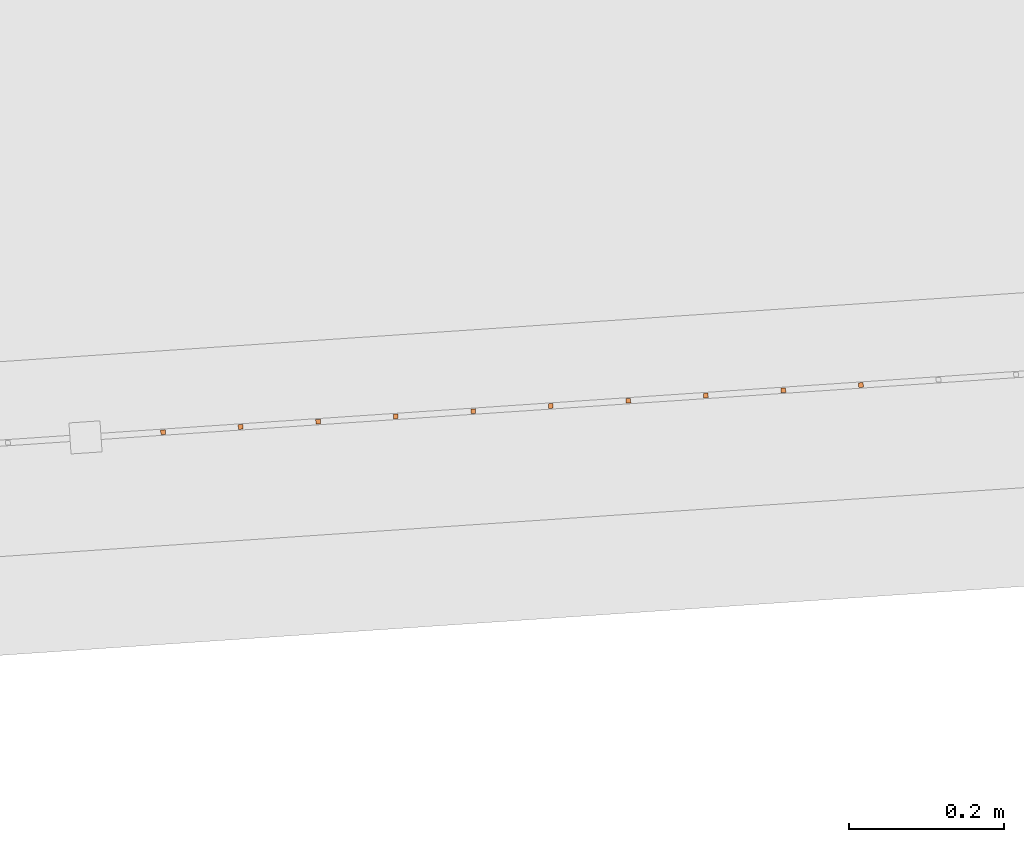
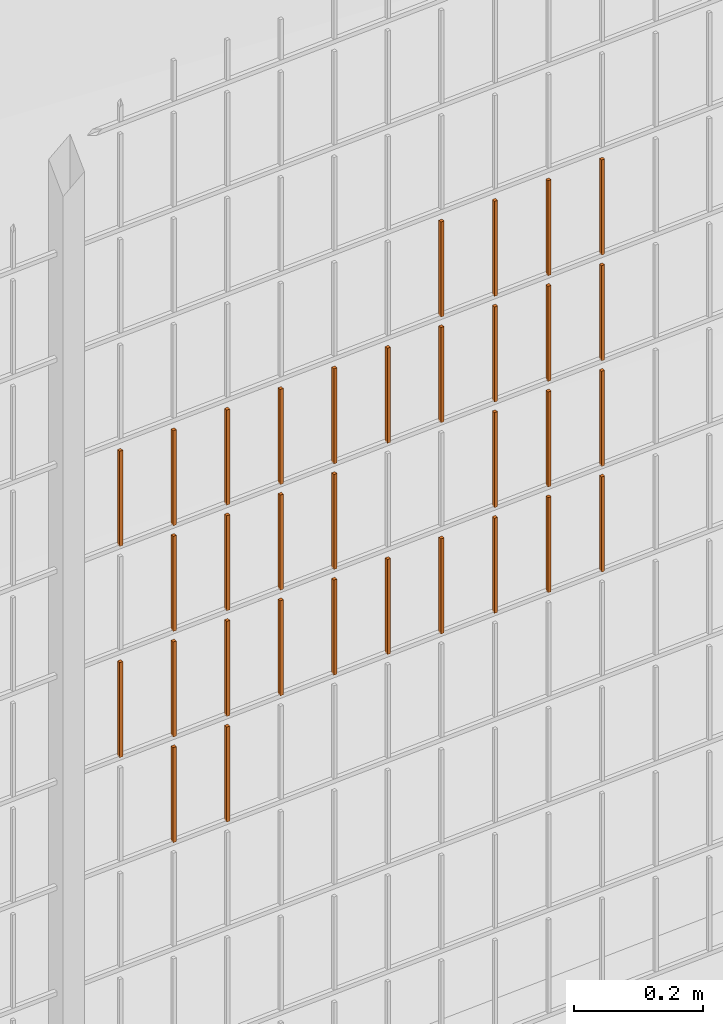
# One storey, part 353 of 1809: 33 proxies, 1 element without a shape of its own.
"""IFC2X3 building model written with IfcOpenShell, lengths in millimetres."""

from ifc_helpers import new_model, entity, si_unit, converted_unit, derived_unit, money_unit, direction, frame, origin_with_axes, place, context, subcontext, project, spatial, faceted_brep, source, transform, mapped, material, type_object, element, aggregate, save


model = new_model("IFC2X3")

# Units and contexts
model_context = context("Model", 3, precision=0.01, world=origin_with_axes(), true_north=direction((0.0, 1.0)))
body_context = subcontext(model_context, "Body", "Model", "MODEL_VIEW")
ifc_project = project(units=[si_unit("LENGTHUNIT", "METRE", prefix="MILLI"), si_unit("AREAUNIT", "SQUARE_METRE"), si_unit("VOLUMEUNIT", "CUBIC_METRE"), converted_unit("PLANEANGLEUNIT", "DEGREE", entity("IfcPlaneAngleMeasure", 0.0174532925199), si_unit("PLANEANGLEUNIT", "RADIAN"), dimensions=[0, 0, 0, 0, 0, 0, 0]), si_unit("SOLIDANGLEUNIT", "STERADIAN"), money_unit("EUR"), converted_unit("TIMEUNIT", "Year", entity("IfcTimeMeasure", 31556926.0), si_unit("TIMEUNIT", "SECOND"), dimensions=[0, 0, 1, 0, 0, 0, 0]), si_unit("MASSUNIT", "GRAM", prefix="KILO"), si_unit("THERMODYNAMICTEMPERATUREUNIT", "DEGREE_CELSIUS"), si_unit("LUMINOUSINTENSITYUNIT", "LUMEN"), si_unit("ENERGYUNIT", "JOULE", prefix="MEGA"), derived_unit("THERMALCONDUCTANCEUNIT", [(si_unit("POWERUNIT", "WATT"), 1), (si_unit("LENGTHUNIT", "METRE"), -1), (si_unit("THERMODYNAMICTEMPERATUREUNIT", "KELVIN"), -1)]), derived_unit("SPECIFICHEATCAPACITYUNIT", [(si_unit("ENERGYUNIT", "JOULE"), 1), (si_unit("MASSUNIT", "GRAM", prefix="KILO"), -1), (si_unit("THERMODYNAMICTEMPERATUREUNIT", "KELVIN"), -1)]), derived_unit("MASSDENSITYUNIT", [(si_unit("MASSUNIT", "GRAM", prefix="KILO"), 1), (si_unit("VOLUMEUNIT", "CUBIC_METRE"), -1)])], contexts=[model_context])

# Site, building, storey
site_placement = place(None, origin_with_axes())
site = spatial("IfcSite", under=ifc_project, at=site_placement, Name="Politse- ja Piirivalveameti ning Päästeameti ühishoone", CompositionType="ELEMENT")
building_placement = place(site_placement, origin_with_axes())
building = spatial("IfcBuilding", under=site, at=building_placement, Name="Politse- ja Piirivalveameti ning Päästeameti ühishoone", CompositionType="ELEMENT")
storey_placement = place(building_placement, origin_with_axes())
storey = spatial("IfcBuildingStorey", under=building, at=storey_placement, Name="Esimene korrus", CompositionType="ELEMENT", Elevation=0.0)

# Proxies
building_element_proxy_type_1 = type_object("IfcBuildingElementProxyType", Name="Railing Type", PredefinedType="NOTDEFINED")
proxy_1_placement = place(storey_placement, frame((89252.001212, -29183.4766571, 203.661247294), z_axis=(0.0, 0.0, 1.0), x_axis=(1.0, 0.0, 0.0)))
proxy_1 = element("IfcBuildingElementProxy", 1, at=proxy_1_placement, inside=storey, type_object=building_element_proxy_type_1, Name="PIIRDEAED")
ifc_material = material(Name="ET-03_Raud")
building_element_proxy_type_2 = type_object("IfcBuildingElementProxyType", Name="IfcBuildingElementProxy", PredefinedType="NOTDEFINED")
shared_shape_1 = source(origin_with_axes(), body_context, "Body", "Brep", [
    faceted_brep([(3.0, 3.0, -0.000752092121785), (-3.0, 3.0, -0.000752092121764), (-3.0, 3.0, 179.99926046), (3.0, 3.0, 179.99926046), (3.0, -3.0, 0.000752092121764), (-3.0, -3.0, 0.000752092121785), (-3.0, -3.0, 180.000764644), (3.0, -3.0, 180.000764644)], [[[0, 1, 2, 3]], [[0, 4, 5, 1]], [[1, 5, 6, 2]], [[3, 2, 6, 7]], [[4, 0, 3, 7]], [[5, 4, 7, 6]]]),
])
proxy_2_placement = place(proxy_1_placement, frame((-26865.4709585, -19112.4359382, 820.483935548), z_axis=(0.0, 0.0, 1.0), x_axis=(1.0, 0.0, 0.0)))
proxy_2 = element("IfcBuildingElementProxy", 2, at=proxy_2_placement, type_object=building_element_proxy_type_2, material=ifc_material, Name="BALUSTER - 001", context=body_context, shape_type="MappedRepresentation", body=[
    mapped(shared_shape_1, transform((0.0, 0.0, 0.0), x_axis=(-0.0673926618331, 0.997726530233, 0.0), y_axis=(-0.997726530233, -0.0673926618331, 0.0), z_axis=(0.0, 0.0, 1.0))),
])
shared_shape_2 = source(origin_with_axes(), body_context, "Body", "Brep", [
    faceted_brep([(3.0, 3.0, -0.000752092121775), (-3.0, 3.0, -0.000752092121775), (-3.0, 3.0, 179.99926046), (3.0, 3.0, 179.99926046), (3.0, -3.0, 0.000752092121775), (-3.0, -3.0, 0.000752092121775), (-3.0, -3.0, 180.000764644), (3.0, -3.0, 180.000764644)], [[[0, 1, 2, 3]], [[0, 4, 5, 1]], [[1, 5, 6, 2]], [[3, 2, 6, 7]], [[4, 0, 3, 7]], [[5, 4, 7, 6]]]),
])
proxy_3_placement = place(proxy_1_placement, frame((-26865.4709585, -19112.4359382, 1220.48393555), z_axis=(0.0, 0.0, 1.0), x_axis=(1.0, 0.0, 0.0)))
proxy_3 = element("IfcBuildingElementProxy", 3, at=proxy_3_placement, type_object=building_element_proxy_type_2, material=ifc_material, Name="BALUSTER - 001", context=body_context, shape_type="MappedRepresentation", body=[
    mapped(shared_shape_2, transform((0.0, 0.0, 0.0), x_axis=(-0.0673926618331, 0.997726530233, 0.0), y_axis=(-0.997726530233, -0.0673926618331, 0.0), z_axis=(0.0, 0.0, 1.0))),
])
shared_shape_3 = source(origin_with_axes(), body_context, "Body", "Brep", [
    faceted_brep([(3.0, 3.0, -0.000752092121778), (-3.0, 3.0, -0.000752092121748), (-3.00000000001, 2.99999999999, 179.99926046), (2.99999999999, 2.99999999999, 179.99926046), (3.0, -3.0, 0.000752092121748), (-3.0, -3.0, 0.000752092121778), (-3.00000000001, -3.00000000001, 180.000764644), (2.99999999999, -3.00000000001, 180.000764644)], [[[0, 1, 2, 3]], [[0, 4, 5, 1]], [[1, 5, 6, 2]], [[3, 2, 6, 7]], [[4, 0, 3, 7]], [[5, 4, 7, 6]]]),
])
proxy_4_placement = place(proxy_1_placement, frame((-26765.6983054, -19105.696672, 1020.50900529), z_axis=(0.0, 0.0, 1.0), x_axis=(1.0, 0.0, 0.0)))
proxy_4 = element("IfcBuildingElementProxy", 4, at=proxy_4_placement, type_object=building_element_proxy_type_2, material=ifc_material, Name="BALUSTER - 001", context=body_context, shape_type="MappedRepresentation", body=[
    mapped(shared_shape_3, transform((0.0, 0.0, 0.0), x_axis=(-0.0673926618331, 0.997726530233, 0.0), y_axis=(-0.997726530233, -0.0673926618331, 0.0), z_axis=(0.0, 0.0, 1.0))),
])
shared_shape_4 = source(origin_with_axes(), body_context, "Body", "Brep", [
    faceted_brep([(3.0, 3.0, -0.000752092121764), (-3.0, 3.0, -0.000752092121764), (-3.0, 3.0, 179.99926046), (3.0, 3.0, 179.99926046), (3.0, -3.0, 0.000752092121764), (-3.0, -3.0, 0.000752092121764), (-3.0, -3.0, 180.000764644), (3.0, -3.0, 180.000764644)], [[[0, 1, 2, 3]], [[0, 4, 5, 1]], [[1, 5, 6, 2]], [[3, 2, 6, 7]], [[4, 0, 3, 7]], [[5, 4, 7, 6]]]),
])
proxy_5_placement = place(proxy_1_placement, frame((-26965.2436115, -19119.1752044, 820.458865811), z_axis=(0.0, 0.0, 1.0), x_axis=(1.0, 0.0, 0.0)))
proxy_5 = element("IfcBuildingElementProxy", 5, at=proxy_5_placement, type_object=building_element_proxy_type_2, material=ifc_material, Name="BALUSTER - 001", context=body_context, shape_type="MappedRepresentation", body=[
    mapped(shared_shape_4, transform((0.0, 0.0, 0.0), x_axis=(-0.0673926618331, 0.997726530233, 0.0), y_axis=(-0.997726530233, -0.0673926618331, 0.0), z_axis=(0.0, 0.0, 1.0))),
])
proxy_6_placement = place(proxy_1_placement, frame((-26965.2436115, -19119.1752044, 1220.45886581), z_axis=(0.0, 0.0, 1.0), x_axis=(1.0, 0.0, 0.0)))
proxy_6 = element("IfcBuildingElementProxy", 6, at=proxy_6_placement, type_object=building_element_proxy_type_2, material=ifc_material, Name="BALUSTER - 001", context=body_context, shape_type="MappedRepresentation", body=[
    mapped(shared_shape_4, transform((0.0, 0.0, 0.0), x_axis=(-0.0673926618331, 0.997726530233, 0.0), y_axis=(-0.997726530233, -0.0673926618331, 0.0), z_axis=(0.0, 0.0, 1.0))),
])
shared_shape_5 = source(origin_with_axes(), body_context, "Body", "Brep", [
    faceted_brep([(3.0, 3.0, -0.000752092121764), (-3.0, 3.0, -0.000752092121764), (-3.0, 3.0, 179.99926046), (3.0, 3.0, 179.99926046), (3.0, -3.0, 0.000752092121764), (-3.0, -3.0, 0.000752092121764), (-3.0, -3.0, 180.000764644), (3.0, -3.0, 180.000764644)], [[[0, 1, 2, 3]], [[0, 4, 5, 1]], [[1, 5, 6, 2]], [[3, 2, 6, 7]], [[4, 0, 3, 7]], [[5, 4, 7, 6]]]),
])
proxy_7_placement = place(proxy_1_placement, frame((-26765.6983054, -19105.696672, 820.509005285), z_axis=(0.0, 0.0, 1.0), x_axis=(1.0, 0.0, 0.0)))
proxy_7 = element("IfcBuildingElementProxy", 7, at=proxy_7_placement, type_object=building_element_proxy_type_2, material=ifc_material, Name="BALUSTER - 001", context=body_context, shape_type="MappedRepresentation", body=[
    mapped(shared_shape_5, transform((0.0, 0.0, 0.0), x_axis=(-0.0673926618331, 0.997726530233, 0.0), y_axis=(-0.997726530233, -0.0673926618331, 0.0), z_axis=(0.0, 0.0, 1.0))),
])
shared_shape_6 = source(origin_with_axes(), body_context, "Body", "Brep", [
    faceted_brep([(3.0, 3.0, -0.000752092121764), (-3.0, 3.0, -0.000752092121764), (-3.0, 3.0, 179.99926046), (3.0, 3.0, 179.99926046), (3.0, -3.0, 0.000752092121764), (-3.0, -3.0, 0.000752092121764), (-3.0, -3.0, 180.000764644), (3.0, -3.0, 180.000764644)], [[[0, 1, 2, 3]], [[0, 4, 5, 1]], [[1, 5, 6, 2]], [[3, 2, 6, 7]], [[4, 0, 3, 7]], [[5, 4, 7, 6]]]),
])
proxy_8_placement = place(proxy_1_placement, frame((-26965.2436115, -19119.1752044, 620.458865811), z_axis=(0.0, 0.0, 1.0), x_axis=(1.0, 0.0, 0.0)))
proxy_8 = element("IfcBuildingElementProxy", 8, at=proxy_8_placement, type_object=building_element_proxy_type_2, material=ifc_material, Name="BALUSTER - 001", context=body_context, shape_type="MappedRepresentation", body=[
    mapped(shared_shape_6, transform((0.0, 0.0, 0.0), x_axis=(-0.0673926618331, 0.997726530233, 0.0), y_axis=(-0.997726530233, -0.0673926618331, 0.0), z_axis=(0.0, 0.0, 1.0))),
])
proxy_9_placement = place(proxy_1_placement, frame((-26765.6983054, -19105.696672, 1220.50900529), z_axis=(0.0, 0.0, 1.0), x_axis=(1.0, 0.0, 0.0)))
proxy_9 = element("IfcBuildingElementProxy", 9, at=proxy_9_placement, type_object=building_element_proxy_type_2, material=ifc_material, Name="BALUSTER - 001", context=body_context, shape_type="MappedRepresentation", body=[
    mapped(shared_shape_6, transform((0.0, 0.0, 0.0), x_axis=(-0.0673926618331, 0.997726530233, 0.0), y_axis=(-0.997726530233, -0.0673926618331, 0.0), z_axis=(0.0, 0.0, 1.0))),
])
shared_shape_7 = source(origin_with_axes(), body_context, "Body", "Brep", [
    faceted_brep([(3.0, 3.0, -0.000752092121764), (-3.0, 3.0, -0.000752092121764), (-3.0, 3.0, 179.99926046), (3.0, 3.0, 179.99926046), (3.0, -3.0, 0.000752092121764), (-3.0, -3.0, 0.000752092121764), (-3.0, -3.0, 180.000764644), (3.0, -3.0, 180.000764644)], [[[0, 1, 2, 3]], [[0, 4, 5, 1]], [[1, 5, 6, 2]], [[3, 2, 6, 7]], [[4, 0, 3, 7]], [[5, 4, 7, 6]]]),
])
proxy_10_placement = place(proxy_1_placement, frame((-26566.1529994, -19092.2181397, 1420.55914476), z_axis=(0.0, 0.0, 1.0), x_axis=(1.0, 0.0, 0.0)))
proxy_10 = element("IfcBuildingElementProxy", 10, at=proxy_10_placement, type_object=building_element_proxy_type_2, material=ifc_material, Name="BALUSTER - 001", context=body_context, shape_type="MappedRepresentation", body=[
    mapped(shared_shape_7, transform((0.0, 0.0, 0.0), x_axis=(-0.0673926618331, 0.997726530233, 0.0), y_axis=(-0.997726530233, -0.0673926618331, 0.0), z_axis=(0.0, 0.0, 1.0))),
])
shared_shape_8 = source(origin_with_axes(), body_context, "Body", "Brep", [
    faceted_brep([(3.0, 3.0, -0.000752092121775), (-3.0, 3.0, -0.000752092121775), (-3.0, 3.0, 179.99926046), (3.0, 3.0, 179.99926046), (3.0, -3.0, 0.000752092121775), (-3.0, -3.0, 0.000752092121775), (-3.0, -3.0, 180.000764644), (3.0, -3.0, 180.000764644)], [[[0, 1, 2, 3]], [[0, 4, 5, 1]], [[1, 5, 6, 2]], [[3, 2, 6, 7]], [[4, 0, 3, 7]], [[5, 4, 7, 6]]]),
])
proxy_11_placement = place(proxy_1_placement, frame((-26266.8350403, -19072.0003411, 1420.63435397), z_axis=(0.0, 0.0, 1.0), x_axis=(1.0, 0.0, 0.0)))
proxy_11 = element("IfcBuildingElementProxy", 11, at=proxy_11_placement, type_object=building_element_proxy_type_2, material=ifc_material, Name="BALUSTER - 001", context=body_context, shape_type="MappedRepresentation", body=[
    mapped(shared_shape_8, transform((0.0, 0.0, 0.0), x_axis=(-0.0673926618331, 0.997726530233, 0.0), y_axis=(-0.997726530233, -0.0673926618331, 0.0), z_axis=(0.0, 0.0, 1.0))),
])
shared_shape_9 = source(origin_with_axes(), body_context, "Body", "Brep", [
    faceted_brep([(3.0, 3.0, -0.000752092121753), (-3.0, 3.0, -0.000752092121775), (-3.0, 3.0, 179.99926046), (3.0, 3.0, 179.99926046), (3.0, -3.0, 0.000752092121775), (-3.0, -3.0, 0.000752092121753), (-3.0, -3.0, 180.000764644), (3.0, -3.0, 180.000764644)], [[[0, 1, 2, 3]], [[0, 4, 5, 1]], [[1, 5, 6, 2]], [[3, 2, 6, 7]], [[4, 0, 3, 7]], [[5, 4, 7, 6]]]),
])
proxy_12_placement = place(proxy_1_placement, frame((-26466.3803464, -19085.4788735, 820.584214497), z_axis=(0.0, 0.0, 1.0), x_axis=(1.0, 0.0, 0.0)))
proxy_12 = element("IfcBuildingElementProxy", 12, at=proxy_12_placement, type_object=building_element_proxy_type_2, material=ifc_material, Name="BALUSTER - 001", context=body_context, shape_type="MappedRepresentation", body=[
    mapped(shared_shape_9, transform((0.0, 0.0, 0.0), x_axis=(-0.0673926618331, 0.997726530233, 0.0), y_axis=(-0.997726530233, -0.0673926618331, 0.0), z_axis=(0.0, 0.0, 1.0))),
])
shared_shape_10 = source(origin_with_axes(), body_context, "Body", "Brep", [
    faceted_brep([(3.0, 3.0, -0.000752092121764), (-3.0, 3.0, -0.000752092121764), (-3.0, 3.0, 179.99926046), (3.0, 3.0, 179.99926046), (3.0, -3.0, 0.000752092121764), (-3.0, -3.0, 0.000752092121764), (-3.0, -3.0, 180.000764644), (3.0, -3.0, 180.000764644)], [[[0, 1, 2, 3]], [[0, 4, 5, 1]], [[1, 5, 6, 2]], [[3, 2, 6, 7]], [[4, 0, 3, 7]], [[5, 4, 7, 6]]]),
])
proxy_13_placement = place(proxy_1_placement, frame((-26566.1529994, -19092.2181397, 1220.55914476), z_axis=(0.0, 0.0, 1.0), x_axis=(1.0, 0.0, 0.0)))
proxy_13 = element("IfcBuildingElementProxy", 13, at=proxy_13_placement, type_object=building_element_proxy_type_2, material=ifc_material, Name="BALUSTER - 001", context=body_context, shape_type="MappedRepresentation", body=[
    mapped(shared_shape_10, transform((0.0, 0.0, 0.0), x_axis=(-0.0673926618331, 0.997726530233, 0.0), y_axis=(-0.997726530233, -0.0673926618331, 0.0), z_axis=(0.0, 0.0, 1.0))),
])
shared_shape_11 = source(origin_with_axes(), body_context, "Body", "Brep", [
    faceted_brep([(3.0, 3.0, -0.000752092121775), (-3.0, 3.0, -0.000752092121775), (-3.0, 3.0, 179.99926046), (3.0, 3.0, 179.99926046), (3.0, -3.0, 0.000752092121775), (-3.0, -3.0, 0.000752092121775), (-3.0, -3.0, 180.000764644), (3.0, -3.0, 180.000764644)], [[[0, 1, 2, 3]], [[0, 4, 5, 1]], [[1, 5, 6, 2]], [[3, 2, 6, 7]], [[4, 0, 3, 7]], [[5, 4, 7, 6]]]),
])
proxy_14_placement = place(proxy_1_placement, frame((-26266.8350403, -19072.0003411, 820.634353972), z_axis=(0.0, 0.0, 1.0), x_axis=(1.0, 0.0, 0.0)))
proxy_14 = element("IfcBuildingElementProxy", 14, at=proxy_14_placement, type_object=building_element_proxy_type_2, material=ifc_material, Name="BALUSTER - 001", context=body_context, shape_type="MappedRepresentation", body=[
    mapped(shared_shape_11, transform((0.0, 0.0, 0.0), x_axis=(-0.0673926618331, 0.997726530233, 0.0), y_axis=(-0.997726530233, -0.0673926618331, 0.0), z_axis=(0.0, 0.0, 1.0))),
])
proxy_15_placement = place(proxy_1_placement, frame((-26266.8350403, -19072.0003411, 1220.63435397), z_axis=(0.0, 0.0, 1.0), x_axis=(1.0, 0.0, 0.0)))
proxy_15 = element("IfcBuildingElementProxy", 15, at=proxy_15_placement, type_object=building_element_proxy_type_2, material=ifc_material, Name="BALUSTER - 001", context=body_context, shape_type="MappedRepresentation", body=[
    mapped(shared_shape_11, transform((0.0, 0.0, 0.0), x_axis=(-0.0673926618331, 0.997726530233, 0.0), y_axis=(-0.997726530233, -0.0673926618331, 0.0), z_axis=(0.0, 0.0, 1.0))),
])
shared_shape_12 = source(origin_with_axes(), body_context, "Body", "Brep", [
    faceted_brep([(3.0, 3.0, -0.000752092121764), (-3.0, 3.0, -0.000752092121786), (-3.0, 3.0, 179.99926046), (3.0, 3.0, 179.99926046), (3.0, -3.0, 0.000752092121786), (-3.0, -3.0, 0.000752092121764), (-3.0, -3.0, 180.000764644), (3.0, -3.0, 180.000764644)], [[[0, 1, 2, 3]], [[0, 4, 5, 1]], [[1, 5, 6, 2]], [[3, 2, 6, 7]], [[4, 0, 3, 7]], [[5, 4, 7, 6]]]),
])
proxy_16_placement = place(proxy_1_placement, frame((-27164.7889175, -19132.6537368, 1220.40872634), z_axis=(0.0, 0.0, 1.0), x_axis=(1.0, 0.0, 0.0)))
proxy_16 = element("IfcBuildingElementProxy", 16, at=proxy_16_placement, type_object=building_element_proxy_type_2, material=ifc_material, Name="BALUSTER - 001", context=body_context, shape_type="MappedRepresentation", body=[
    mapped(shared_shape_12, transform((0.0, 0.0, 0.0), x_axis=(-0.0673926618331, 0.997726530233, 0.0), y_axis=(-0.997726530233, -0.0673926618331, 0.0), z_axis=(0.0, 0.0, 1.0))),
])
shared_shape_13 = source(origin_with_axes(), body_context, "Body", "Brep", [
    faceted_brep([(3.0, 3.0, -0.000752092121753), (-3.0, 3.0, -0.000752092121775), (-3.0, 3.0, 179.99926046), (3.0, 3.0, 179.99926046), (3.0, -3.0, 0.000752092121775), (-3.0, -3.0, 0.000752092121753), (-3.0, -3.0, 180.000764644), (3.0, -3.0, 180.000764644)], [[[0, 1, 2, 3]], [[0, 4, 5, 1]], [[1, 5, 6, 2]], [[3, 2, 6, 7]], [[4, 0, 3, 7]], [[5, 4, 7, 6]]]),
])
proxy_17_placement = place(proxy_1_placement, frame((-26466.3803464, -19085.4788735, 1220.5842145), z_axis=(0.0, 0.0, 1.0), x_axis=(1.0, 0.0, 0.0)))
proxy_17 = element("IfcBuildingElementProxy", 17, at=proxy_17_placement, type_object=building_element_proxy_type_2, material=ifc_material, Name="BALUSTER - 001", context=body_context, shape_type="MappedRepresentation", body=[
    mapped(shared_shape_13, transform((0.0, 0.0, 0.0), x_axis=(-0.0673926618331, 0.997726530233, 0.0), y_axis=(-0.997726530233, -0.0673926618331, 0.0), z_axis=(0.0, 0.0, 1.0))),
])
shared_shape_14 = source(origin_with_axes(), body_context, "Body", "Brep", [
    faceted_brep([(3.0, 3.0, -0.000752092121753), (-3.0, 3.0, -0.000752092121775), (-3.0, 3.0, 179.99926046), (3.0, 3.0, 179.99926046), (3.0, -3.0, 0.000752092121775), (-3.0, -3.0, 0.000752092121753), (-3.0, -3.0, 180.000764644), (3.0, -3.0, 180.000764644)], [[[0, 1, 2, 3]], [[0, 4, 5, 1]], [[1, 5, 6, 2]], [[3, 2, 6, 7]], [[4, 0, 3, 7]], [[5, 4, 7, 6]]]),
])
proxy_18_placement = place(proxy_1_placement, frame((-26366.6076933, -19078.7396073, 1220.60928423), z_axis=(0.0, 0.0, 1.0), x_axis=(1.0, 0.0, 0.0)))
proxy_18 = element("IfcBuildingElementProxy", 18, at=proxy_18_placement, type_object=building_element_proxy_type_2, material=ifc_material, Name="BALUSTER - 001", context=body_context, shape_type="MappedRepresentation", body=[
    mapped(shared_shape_14, transform((0.0, 0.0, 0.0), x_axis=(-0.0673926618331, 0.997726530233, 0.0), y_axis=(-0.997726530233, -0.0673926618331, 0.0), z_axis=(0.0, 0.0, 1.0))),
])
shared_shape_15 = source(origin_with_axes(), body_context, "Body", "Brep", [
    faceted_brep([(3.0, 3.0, -0.000752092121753), (-3.0, 3.0, -0.000752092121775), (-3.0, 3.0, 179.99926046), (3.0, 3.0, 179.99926046), (3.0, -3.0, 0.000752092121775), (-3.0, -3.0, 0.000752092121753), (-3.0, -3.0, 180.000764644), (3.0, -3.0, 180.000764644)], [[[0, 1, 2, 3]], [[0, 4, 5, 1]], [[1, 5, 6, 2]], [[3, 2, 6, 7]], [[4, 0, 3, 7]], [[5, 4, 7, 6]]]),
])
proxy_19_placement = place(proxy_1_placement, frame((-27065.0162645, -19125.9144706, 620.433796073), z_axis=(0.0, 0.0, 1.0), x_axis=(1.0, 0.0, 0.0)))
proxy_19 = element("IfcBuildingElementProxy", 19, at=proxy_19_placement, type_object=building_element_proxy_type_2, material=ifc_material, Name="BALUSTER - 001", context=body_context, shape_type="MappedRepresentation", body=[
    mapped(shared_shape_15, transform((0.0, 0.0, 0.0), x_axis=(-0.0673926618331, 0.997726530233, 0.0), y_axis=(-0.997726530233, -0.0673926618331, 0.0), z_axis=(0.0, 0.0, 1.0))),
])
shared_shape_16 = source(origin_with_axes(), body_context, "Body", "Brep", [
    faceted_brep([(3.0, 3.0, -0.000752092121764), (-3.0, 3.0, -0.000752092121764), (-3.0, 3.0, 179.99926046), (3.0, 3.0, 179.99926046), (3.0, -3.0, 0.000752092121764), (-3.0, -3.0, 0.000752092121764), (-3.0, -3.0, 180.000764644), (3.0, -3.0, 180.000764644)], [[[0, 1, 2, 3]], [[0, 4, 5, 1]], [[1, 5, 6, 2]], [[3, 2, 6, 7]], [[4, 0, 3, 7]], [[5, 4, 7, 6]]]),
])
proxy_20_placement = place(proxy_1_placement, frame((-26366.6076933, -19078.7396073, 820.609284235), z_axis=(0.0, 0.0, 1.0), x_axis=(1.0, 0.0, 0.0)))
proxy_20 = element("IfcBuildingElementProxy", 20, at=proxy_20_placement, type_object=building_element_proxy_type_2, material=ifc_material, Name="BALUSTER - 001", context=body_context, shape_type="MappedRepresentation", body=[
    mapped(shared_shape_16, transform((0.0, 0.0, 0.0), x_axis=(-0.0673926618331, 0.997726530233, 0.0), y_axis=(-0.997726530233, -0.0673926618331, 0.0), z_axis=(0.0, 0.0, 1.0))),
])
proxy_21_placement = place(proxy_1_placement, frame((-26665.9256524, -19098.9574059, 820.534075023), z_axis=(0.0, 0.0, 1.0), x_axis=(1.0, 0.0, 0.0)))
proxy_21 = element("IfcBuildingElementProxy", 21, at=proxy_21_placement, type_object=building_element_proxy_type_2, material=ifc_material, Name="BALUSTER - 001", context=body_context, shape_type="MappedRepresentation", body=[
    mapped(shared_shape_16, transform((0.0, 0.0, 0.0), x_axis=(-0.0673926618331, 0.997726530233, 0.0), y_axis=(-0.997726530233, -0.0673926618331, 0.0), z_axis=(0.0, 0.0, 1.0))),
])
proxy_22_placement = place(proxy_1_placement, frame((-27164.7889175, -19132.6537368, 820.408726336), z_axis=(0.0, 0.0, 1.0), x_axis=(1.0, 0.0, 0.0)))
proxy_22 = element("IfcBuildingElementProxy", 22, at=proxy_22_placement, type_object=building_element_proxy_type_2, material=ifc_material, Name="BALUSTER - 001", context=body_context, shape_type="MappedRepresentation", body=[
    mapped(shared_shape_16, transform((0.0, 0.0, 0.0), x_axis=(-0.0673926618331, 0.997726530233, 0.0), y_axis=(-0.997726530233, -0.0673926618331, 0.0), z_axis=(0.0, 0.0, 1.0))),
])
proxy_23_placement = place(proxy_1_placement, frame((-27065.0162645, -19125.9144706, 1220.43379607), z_axis=(0.0, 0.0, 1.0), x_axis=(1.0, 0.0, 0.0)))
proxy_23 = element("IfcBuildingElementProxy", 23, at=proxy_23_placement, type_object=building_element_proxy_type_2, material=ifc_material, Name="BALUSTER - 001", context=body_context, shape_type="MappedRepresentation", body=[
    mapped(shared_shape_16, transform((0.0, 0.0, 0.0), x_axis=(-0.0673926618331, 0.997726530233, 0.0), y_axis=(-0.997726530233, -0.0673926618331, 0.0), z_axis=(0.0, 0.0, 1.0))),
])
shared_shape_17 = source(origin_with_axes(), body_context, "Body", "Brep", [
    faceted_brep([(3.0, 3.0, -0.000752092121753), (-3.0, 3.0, -0.000752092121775), (-3.0, 3.0, 179.99926046), (3.0, 3.0, 179.99926046), (3.0, -3.0, 0.000752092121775), (-3.0, -3.0, 0.000752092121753), (-3.0, -3.0, 180.000764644), (3.0, -3.0, 180.000764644)], [[[0, 1, 2, 3]], [[0, 4, 5, 1]], [[1, 5, 6, 2]], [[3, 2, 6, 7]], [[4, 0, 3, 7]], [[5, 4, 7, 6]]]),
])
proxy_24_placement = place(proxy_1_placement, frame((-26566.1529994, -19092.2181397, 820.55914476), z_axis=(0.0, 0.0, 1.0), x_axis=(1.0, 0.0, 0.0)))
proxy_24 = element("IfcBuildingElementProxy", 24, at=proxy_24_placement, type_object=building_element_proxy_type_2, material=ifc_material, Name="BALUSTER - 001", context=body_context, shape_type="MappedRepresentation", body=[
    mapped(shared_shape_17, transform((0.0, 0.0, 0.0), x_axis=(-0.0673926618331, 0.997726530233, 0.0), y_axis=(-0.997726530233, -0.0673926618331, 0.0), z_axis=(0.0, 0.0, 1.0))),
])
shared_shape_18 = source(origin_with_axes(), body_context, "Body", "Brep", [
    faceted_brep([(3.0, 3.0, -0.000752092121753), (-3.0, 3.0, -0.000752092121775), (-3.0, 3.0, 179.99926046), (3.0, 3.0, 179.99926046), (3.0, -3.0, 0.000752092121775), (-3.0, -3.0, 0.000752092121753), (-3.0, -3.0, 180.000764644), (3.0, -3.0, 180.000764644)], [[[0, 1, 2, 3]], [[0, 4, 5, 1]], [[1, 5, 6, 2]], [[3, 2, 6, 7]], [[4, 0, 3, 7]], [[5, 4, 7, 6]]]),
])
proxy_25_placement = place(proxy_1_placement, frame((-27065.0162645, -19125.9144706, 820.433796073), z_axis=(0.0, 0.0, 1.0), x_axis=(1.0, 0.0, 0.0)))
proxy_25 = element("IfcBuildingElementProxy", 25, at=proxy_25_placement, type_object=building_element_proxy_type_2, material=ifc_material, Name="BALUSTER - 001", context=body_context, shape_type="MappedRepresentation", body=[
    mapped(shared_shape_18, transform((0.0, 0.0, 0.0), x_axis=(-0.0673926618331, 0.997726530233, 0.0), y_axis=(-0.997726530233, -0.0673926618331, 0.0), z_axis=(0.0, 0.0, 1.0))),
])
shared_shape_19 = source(origin_with_axes(), body_context, "Body", "Brep", [
    faceted_brep([(3.0, 3.0, -0.000752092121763), (-3.0, 3.0, -0.000752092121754), (-3.00000000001, 2.99999999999, 179.99926046), (2.99999999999, 2.99999999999, 179.99926046), (3.0, -3.0, 0.000752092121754), (-3.0, -3.0, 0.000752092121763), (-3.00000000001, -3.00000000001, 180.000764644), (2.99999999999, -3.00000000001, 180.000764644)], [[[0, 1, 2, 3]], [[0, 4, 5, 1]], [[1, 5, 6, 2]], [[3, 2, 6, 7]], [[4, 0, 3, 7]], [[5, 4, 7, 6]]]),
])
proxy_26_placement = place(proxy_1_placement, frame((-26266.8350403, -19072.0003411, 1020.63435397), z_axis=(0.0, 0.0, 1.0), x_axis=(1.0, 0.0, 0.0)))
proxy_26 = element("IfcBuildingElementProxy", 26, at=proxy_26_placement, type_object=building_element_proxy_type_2, material=ifc_material, Name="BALUSTER - 001", context=body_context, shape_type="MappedRepresentation", body=[
    mapped(shared_shape_19, transform((0.0, 0.0, 0.0), x_axis=(-0.0673926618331, 0.997726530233, 0.0), y_axis=(-0.997726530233, -0.0673926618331, 0.0), z_axis=(0.0, 0.0, 1.0))),
])
shared_shape_20 = source(origin_with_axes(), body_context, "Body", "Brep", [
    faceted_brep([(3.0, 3.0, -0.000752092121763), (-3.0, 3.0, -0.000752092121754), (-3.00000000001, 2.99999999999, 179.99926046), (2.99999999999, 2.99999999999, 179.99926046), (3.0, -3.0, 0.000752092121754), (-3.0, -3.0, 0.000752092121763), (-3.00000000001, -3.00000000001, 180.000764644), (2.99999999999, -3.00000000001, 180.000764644)], [[[0, 1, 2, 3]], [[0, 4, 5, 1]], [[1, 5, 6, 2]], [[3, 2, 6, 7]], [[4, 0, 3, 7]], [[5, 4, 7, 6]]]),
])
proxy_27_placement = place(proxy_1_placement, frame((-26366.6076933, -19078.7396073, 1020.60928423), z_axis=(0.0, 0.0, 1.0), x_axis=(1.0, 0.0, 0.0)))
proxy_27 = element("IfcBuildingElementProxy", 27, at=proxy_27_placement, type_object=building_element_proxy_type_2, material=ifc_material, Name="BALUSTER - 001", context=body_context, shape_type="MappedRepresentation", body=[
    mapped(shared_shape_20, transform((0.0, 0.0, 0.0), x_axis=(-0.0673926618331, 0.997726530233, 0.0), y_axis=(-0.997726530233, -0.0673926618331, 0.0), z_axis=(0.0, 0.0, 1.0))),
])
shared_shape_21 = source(origin_with_axes(), body_context, "Body", "Brep", [
    faceted_brep([(3.0, 3.0, -0.000752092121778), (-3.0, 3.0, -0.000752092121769), (-3.00000000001, 2.99999999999, 179.99926046), (2.99999999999, 2.99999999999, 179.99926046), (3.0, -3.0, 0.000752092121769), (-3.0, -3.0, 0.000752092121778), (-3.00000000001, -3.00000000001, 180.000764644), (2.99999999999, -3.00000000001, 180.000764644)], [[[0, 1, 2, 3]], [[0, 4, 5, 1]], [[1, 5, 6, 2]], [[3, 2, 6, 7]], [[4, 0, 3, 7]], [[5, 4, 7, 6]]]),
])
proxy_28_placement = place(proxy_1_placement, frame((-26466.3803464, -19085.4788735, 1020.5842145), z_axis=(0.0, 0.0, 1.0), x_axis=(1.0, 0.0, 0.0)))
proxy_28 = element("IfcBuildingElementProxy", 28, at=proxy_28_placement, type_object=building_element_proxy_type_2, material=ifc_material, Name="BALUSTER - 001", context=body_context, shape_type="MappedRepresentation", body=[
    mapped(shared_shape_21, transform((0.0, 0.0, 0.0), x_axis=(-0.0673926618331, 0.997726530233, 0.0), y_axis=(-0.997726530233, -0.0673926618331, 0.0), z_axis=(0.0, 0.0, 1.0))),
])
shared_shape_22 = source(origin_with_axes(), body_context, "Body", "Brep", [
    faceted_brep([(3.0, 3.0, -0.000752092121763), (-3.0, 3.0, -0.000752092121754), (-3.00000000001, 2.99999999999, 179.99926046), (2.99999999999, 2.99999999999, 179.99926046), (3.0, -3.0, 0.000752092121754), (-3.0, -3.0, 0.000752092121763), (-3.00000000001, -3.00000000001, 180.000764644), (2.99999999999, -3.00000000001, 180.000764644)], [[[0, 1, 2, 3]], [[0, 4, 5, 1]], [[1, 5, 6, 2]], [[3, 2, 6, 7]], [[4, 0, 3, 7]], [[5, 4, 7, 6]]]),
])
proxy_29_placement = place(proxy_1_placement, frame((-26865.4709585, -19112.4359382, 1020.48393555), z_axis=(0.0, 0.0, 1.0), x_axis=(1.0, 0.0, 0.0)))
proxy_29 = element("IfcBuildingElementProxy", 29, at=proxy_29_placement, type_object=building_element_proxy_type_2, material=ifc_material, Name="BALUSTER - 001", context=body_context, shape_type="MappedRepresentation", body=[
    mapped(shared_shape_22, transform((0.0, 0.0, 0.0), x_axis=(-0.0673926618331, 0.997726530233, 0.0), y_axis=(-0.997726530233, -0.0673926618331, 0.0), z_axis=(0.0, 0.0, 1.0))),
])
shared_shape_23 = source(origin_with_axes(), body_context, "Body", "Brep", [
    faceted_brep([(3.0, 3.0, -0.000752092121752), (-3.0, 3.0, -0.000752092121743), (-3.00000000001, 2.99999999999, 179.99926046), (2.99999999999, 2.99999999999, 179.99926046), (3.0, -3.0, 0.000752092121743), (-3.0, -3.0, 0.000752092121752), (-3.00000000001, -3.00000000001, 180.000764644), (2.99999999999, -3.00000000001, 180.000764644)], [[[0, 1, 2, 3]], [[0, 4, 5, 1]], [[1, 5, 6, 2]], [[3, 2, 6, 7]], [[4, 0, 3, 7]], [[5, 4, 7, 6]]]),
])
proxy_30_placement = place(proxy_1_placement, frame((-26965.2436115, -19119.1752044, 1020.45886581), z_axis=(0.0, 0.0, 1.0), x_axis=(1.0, 0.0, 0.0)))
proxy_30 = element("IfcBuildingElementProxy", 30, at=proxy_30_placement, type_object=building_element_proxy_type_2, material=ifc_material, Name="BALUSTER - 001", context=body_context, shape_type="MappedRepresentation", body=[
    mapped(shared_shape_23, transform((0.0, 0.0, 0.0), x_axis=(-0.0673926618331, 0.997726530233, 0.0), y_axis=(-0.997726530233, -0.0673926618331, 0.0), z_axis=(0.0, 0.0, 1.0))),
])
shared_shape_24 = source(origin_with_axes(), body_context, "Body", "Brep", [
    faceted_brep([(3.0, 3.0, -0.000752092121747), (-3.0, 3.0, -0.00075209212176), (-3.00000000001, 3.0, 179.99926046), (2.99999999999, 3.0, 179.99926046), (3.0, -3.0, 0.00075209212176), (-3.0, -3.0, 0.000752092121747), (-3.00000000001, -3.0, 180.000764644), (2.99999999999, -3.0, 180.000764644)], [[[0, 1, 2, 3]], [[0, 4, 5, 1]], [[1, 5, 6, 2]], [[3, 2, 6, 7]], [[4, 0, 3, 7]], [[5, 4, 7, 6]]]),
])
proxy_31_placement = place(proxy_1_placement, frame((-27065.0162645, -19125.9144706, 1020.43379607), z_axis=(0.0, 0.0, 1.0), x_axis=(1.0, 0.0, 0.0)))
proxy_31 = element("IfcBuildingElementProxy", 31, at=proxy_31_placement, type_object=building_element_proxy_type_2, material=ifc_material, Name="BALUSTER - 001", context=body_context, shape_type="MappedRepresentation", body=[
    mapped(shared_shape_24, transform((0.0, 0.0, 0.0), x_axis=(-0.0673926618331, 0.997726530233, 0.0), y_axis=(-0.997726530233, -0.0673926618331, 0.0), z_axis=(0.0, 0.0, 1.0))),
])
shared_shape_25 = source(origin_with_axes(), body_context, "Body", "Brep", [
    faceted_brep([(3.0, 3.0, -0.000752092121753), (-3.0, 3.0, -0.000752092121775), (-3.0, 3.0, 179.99926046), (3.0, 3.0, 179.99926046), (3.0, -3.0, 0.000752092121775), (-3.0, -3.0, 0.000752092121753), (-3.0, -3.0, 180.000764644), (3.0, -3.0, 180.000764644)], [[[0, 1, 2, 3]], [[0, 4, 5, 1]], [[1, 5, 6, 2]], [[3, 2, 6, 7]], [[4, 0, 3, 7]], [[5, 4, 7, 6]]]),
])
proxy_32_placement = place(proxy_1_placement, frame((-26665.9256524, -19098.9574059, 1220.53407502), z_axis=(0.0, 0.0, 1.0), x_axis=(1.0, 0.0, 0.0)))
proxy_32 = element("IfcBuildingElementProxy", 32, at=proxy_32_placement, type_object=building_element_proxy_type_2, material=ifc_material, Name="BALUSTER - 001", context=body_context, shape_type="MappedRepresentation", body=[
    mapped(shared_shape_25, transform((0.0, 0.0, 0.0), x_axis=(-0.0673926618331, 0.997726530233, 0.0), y_axis=(-0.997726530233, -0.0673926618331, 0.0), z_axis=(0.0, 0.0, 1.0))),
])
shared_shape_26 = source(origin_with_axes(), body_context, "Body", "Brep", [
    faceted_brep([(3.0, 3.0, -0.000752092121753), (-3.0, 3.0, -0.000752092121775), (-3.0, 3.0, 179.99926046), (3.0, 3.0, 179.99926046), (3.0, -3.0, 0.000752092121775), (-3.0, -3.0, 0.000752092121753), (-3.0, -3.0, 180.000764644), (3.0, -3.0, 180.000764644)], [[[0, 1, 2, 3]], [[0, 4, 5, 1]], [[1, 5, 6, 2]], [[3, 2, 6, 7]], [[4, 0, 3, 7]], [[5, 4, 7, 6]]]),
])
proxy_33_placement = place(proxy_1_placement, frame((-26366.6076933, -19078.7396073, 1420.60928423), z_axis=(0.0, 0.0, 1.0), x_axis=(1.0, 0.0, 0.0)))
proxy_33 = element("IfcBuildingElementProxy", 33, at=proxy_33_placement, type_object=building_element_proxy_type_2, material=ifc_material, Name="BALUSTER - 001", context=body_context, shape_type="MappedRepresentation", body=[
    mapped(shared_shape_26, transform((0.0, 0.0, 0.0), x_axis=(-0.0673926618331, 0.997726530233, 0.0), y_axis=(-0.997726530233, -0.0673926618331, 0.0), z_axis=(0.0, 0.0, 1.0))),
])
shared_shape_27 = source(origin_with_axes(), body_context, "Body", "Brep", [
    faceted_brep([(3.0, 3.0, -0.000752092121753), (-3.0, 3.0, -0.000752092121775), (-3.0, 3.0, 179.99926046), (3.0, 3.0, 179.99926046), (3.0, -3.0, 0.000752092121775), (-3.0, -3.0, 0.000752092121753), (-3.0, -3.0, 180.000764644), (3.0, -3.0, 180.000764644)], [[[0, 1, 2, 3]], [[0, 4, 5, 1]], [[1, 5, 6, 2]], [[3, 2, 6, 7]], [[4, 0, 3, 7]], [[5, 4, 7, 6]]]),
])
proxy_34_placement = place(proxy_1_placement, frame((-26466.3803464, -19085.4788735, 1420.5842145), z_axis=(0.0, 0.0, 1.0), x_axis=(1.0, 0.0, 0.0)))
proxy_34 = element("IfcBuildingElementProxy", 34, at=proxy_34_placement, type_object=building_element_proxy_type_2, material=ifc_material, Name="BALUSTER - 001", context=body_context, shape_type="MappedRepresentation", body=[
    mapped(shared_shape_27, transform((0.0, 0.0, 0.0), x_axis=(-0.0673926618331, 0.997726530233, 0.0), y_axis=(-0.997726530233, -0.0673926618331, 0.0), z_axis=(0.0, 0.0, 1.0))),
])
aggregate(proxy_1, [proxy_8, proxy_19, proxy_14, proxy_20, proxy_12, proxy_24, proxy_21, proxy_7, proxy_2, proxy_5, proxy_25, proxy_22, proxy_26, proxy_27, proxy_28, proxy_4, proxy_29, proxy_30, proxy_31, proxy_15, proxy_18, proxy_17, proxy_13, proxy_32, proxy_9, proxy_3, proxy_6, proxy_23, proxy_16, proxy_11, proxy_33, proxy_34, proxy_10])

save(model, "model.ifc")
